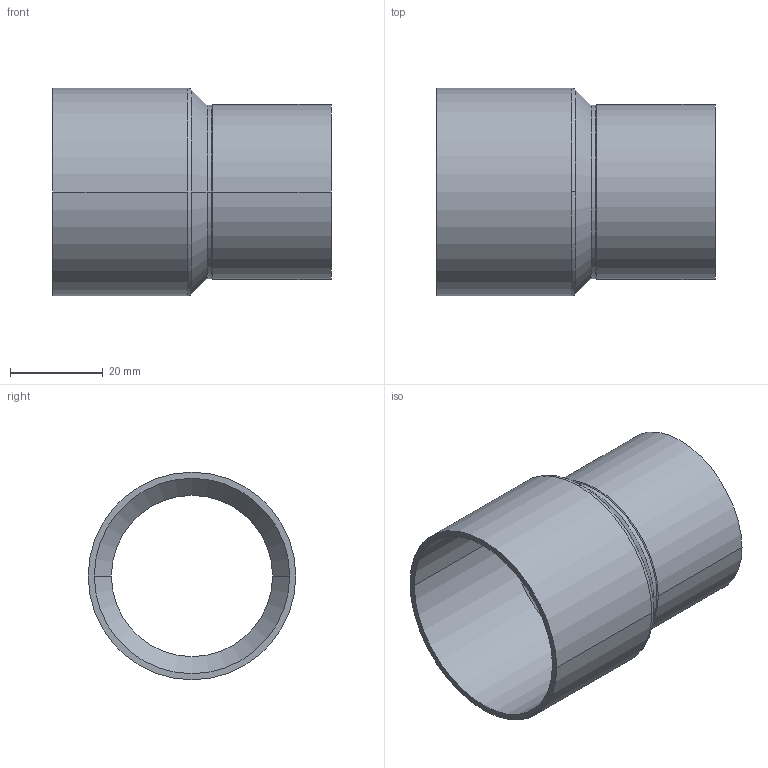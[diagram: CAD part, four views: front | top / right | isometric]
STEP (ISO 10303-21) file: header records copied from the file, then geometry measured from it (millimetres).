
FILE_DESCRIPTION((''),'2;1');
FILE_NAME('G:\Technics\CAD\Bauteile\Serie 15240\152404235.stp','2005-10-21T12:51:15',('boden'),(''),'Autodesk Inventor 8','Autodesk Inventor 8','');
FILE_SCHEMA(('AUTOMOTIVE_DESIGN { 1 0 10303 214 1 1 1 1 }'));
Length unit declared in the file: millimetre
Products named in the file (1): 152404235
Bounding box: 60 x 44.75 x 44.75 mm (x, y, z)
Volume: 10071.8 mm3; surface area: 15821.1 mm2
Topology: 1 solids, 1 shells, 24 faces, 52 edges, 30 vertices
Faces by surface type: cylinder 12, cone 8, torus 2, plane 2
Entity records: 683 total; most frequent: DIRECTION 134, CARTESIAN_POINT 107, ORIENTED_EDGE 104, AXIS2_PLACEMENT_3D 57, EDGE_CURVE 52, CIRCLE 32, VERTEX_POINT 30, EDGE_LOOP 26
